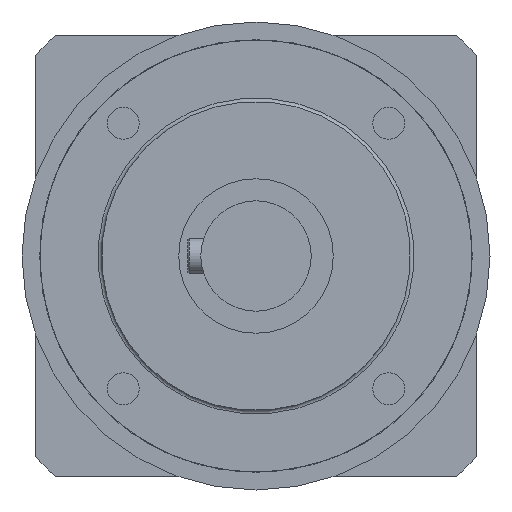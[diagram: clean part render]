
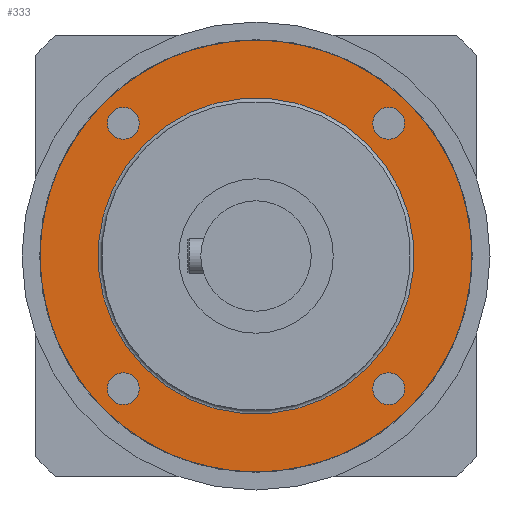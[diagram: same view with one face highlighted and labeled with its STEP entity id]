
A CAD part, left-side view. The second image highlights one B-rep face of the part: STEP entity #333.
In plain terms, the highlighted planar face has unit normal (-1, 0, 0).
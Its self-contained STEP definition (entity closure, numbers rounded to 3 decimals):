
#173=FACE_BOUND('',#566,.T.);
#174=FACE_BOUND('',#567,.T.);
#175=FACE_BOUND('',#568,.T.);
#176=FACE_BOUND('',#569,.T.);
#177=FACE_BOUND('',#570,.T.);
#265=PLANE('',#1526);
#333=ADVANCED_FACE('',(#173,#174,#175,#176,#177,#460),#265,.T.);
#460=FACE_OUTER_BOUND('',#571,.T.);
#566=EDGE_LOOP('',(#940));
#567=EDGE_LOOP('',(#941));
#568=EDGE_LOOP('',(#942));
#569=EDGE_LOOP('',(#943));
#570=EDGE_LOOP('',(#944));
#571=EDGE_LOOP('',(#945));
#940=ORIENTED_EDGE('',*,*,#1281,.T.);
#941=ORIENTED_EDGE('',*,*,#1282,.T.);
#942=ORIENTED_EDGE('',*,*,#1283,.T.);
#943=ORIENTED_EDGE('',*,*,#1284,.T.);
#944=ORIENTED_EDGE('',*,*,#1285,.T.);
#945=ORIENTED_EDGE('',*,*,#1286,.T.);
#1134=VERTEX_POINT('',#2325);
#1135=VERTEX_POINT('',#2327);
#1136=VERTEX_POINT('',#2329);
#1137=VERTEX_POINT('',#2331);
#1138=VERTEX_POINT('',#2333);
#1139=VERTEX_POINT('',#2335);
#1281=EDGE_CURVE('',#1134,#1134,#1386,.T.);
#1282=EDGE_CURVE('',#1135,#1135,#1387,.T.);
#1283=EDGE_CURVE('',#1136,#1136,#1388,.T.);
#1284=EDGE_CURVE('',#1137,#1137,#1389,.T.);
#1285=EDGE_CURVE('',#1138,#1138,#1390,.T.);
#1286=EDGE_CURVE('',#1139,#1139,#1391,.T.);
#1386=CIRCLE('',#1520,3.594);
#1387=CIRCLE('',#1521,3.594);
#1388=CIRCLE('',#1522,3.594);
#1389=CIRCLE('',#1523,3.594);
#1390=CIRCLE('',#1524,35.8);
#1391=CIRCLE('',#1525,49.);
#1520=AXIS2_PLACEMENT_3D('',#2324,#1835,#1836);
#1521=AXIS2_PLACEMENT_3D('',#2326,#1837,#1838);
#1522=AXIS2_PLACEMENT_3D('',#2328,#1839,#1840);
#1523=AXIS2_PLACEMENT_3D('',#2330,#1841,#1842);
#1524=AXIS2_PLACEMENT_3D('',#2332,#1843,#1844);
#1525=AXIS2_PLACEMENT_3D('',#2334,#1845,#1846);
#1526=AXIS2_PLACEMENT_3D('',#2336,#1847,#1848);
#1835=DIRECTION('',(1.,0.,0.));
#1836=DIRECTION('',(0.,0.707,-0.707));
#1837=DIRECTION('',(1.,0.,0.));
#1838=DIRECTION('',(0.,0.707,0.707));
#1839=DIRECTION('',(1.,0.,0.));
#1840=DIRECTION('',(0.,-0.707,0.707));
#1841=DIRECTION('',(1.,0.,0.));
#1842=DIRECTION('',(0.,-0.707,-0.707));
#1843=DIRECTION('',(1.,0.,0.));
#1844=DIRECTION('',(0.,0.707,0.707));
#1845=DIRECTION('',(-1.,0.,0.));
#1846=DIRECTION('',(0.,0.707,0.707));
#1847=DIRECTION('',(-1.,0.,0.));
#1848=DIRECTION('',(0.,0.707,0.707));
#2324=CARTESIAN_POINT('',(-140.,30.052,30.052));
#2325=CARTESIAN_POINT('',(-140.,32.593,27.511));
#2326=CARTESIAN_POINT('',(-140.,-30.052,30.052));
#2327=CARTESIAN_POINT('',(-140.,-27.511,32.593));
#2328=CARTESIAN_POINT('',(-140.,-30.052,-30.052));
#2329=CARTESIAN_POINT('',(-140.,-32.593,-27.511));
#2330=CARTESIAN_POINT('',(-140.,30.052,-30.052));
#2331=CARTESIAN_POINT('',(-140.,27.511,-32.593));
#2332=CARTESIAN_POINT('',(-140.,0.,0.));
#2333=CARTESIAN_POINT('',(-140.,25.314,25.314));
#2334=CARTESIAN_POINT('',(-140.,0.,0.));
#2335=CARTESIAN_POINT('',(-140.,34.648,34.648));
#2336=CARTESIAN_POINT('',(-140.,0.,0.));
